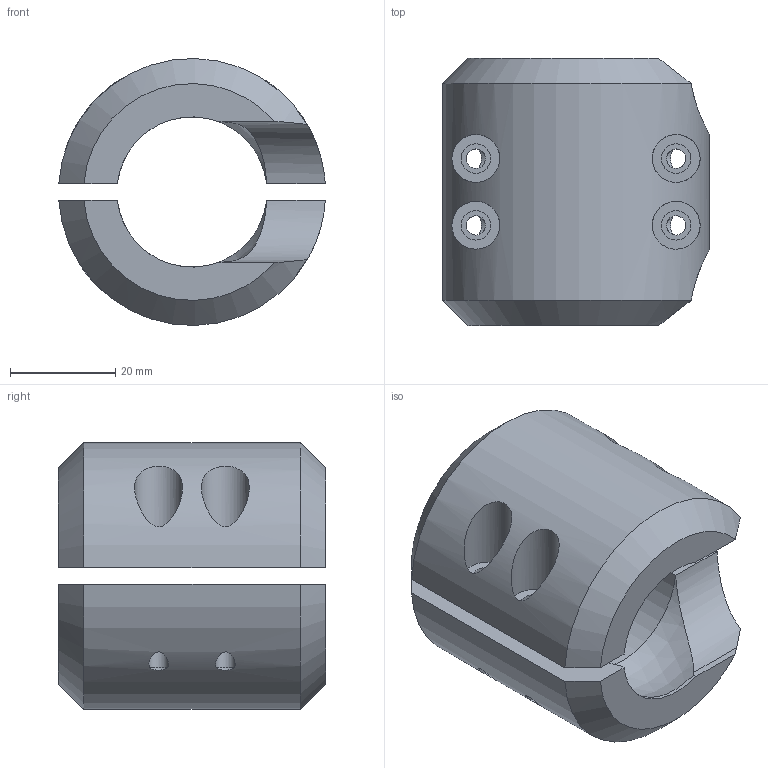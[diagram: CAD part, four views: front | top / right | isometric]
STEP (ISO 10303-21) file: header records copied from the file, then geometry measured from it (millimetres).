
FILE_DESCRIPTION( ( 'Unknown' ), '1' );
FILE_NAME( 'S:/A & P Tool/Start Button Swivel Mount/STP Files for Website/Knuckle.stp', 'Unknown', ( 'Jorge Villegas' ), ( 'A&P' ), 'PSStep 14.0', 'Solid Edge', ' ' );
FILE_SCHEMA( ( 'AUTOMOTIVE_DESIGN { 1 0 10303 214 1 1 1 1 }' ) );
Length unit declared in the file: millimetre
Products named in the file (3): 1; 2; 3
Bounding box: 50.7 x 50.8 x 50.79 mm (x, y, z)
Volume: 51919.6 mm3; surface area: 16495.3 mm2
Topology: 2 solids, 2 shells, 52 faces, 136 edges, 92 vertices
Faces by surface type: cylinder 24, plane 16, cone 8, sphere 4
Full cylindrical faces by diameter (mm): 3.68 x4, 5.613 x4, 9.119 x4
Entity records: 4521 total; most frequent: CARTESIAN_POINT 2482, DIRECTION 246, EDGE_CURVE 242, ORIENTED_EDGE 232, VERTEX_POINT 210, B_SPLINE_CURVE_WITH_KNOTS 158, AXIS2_PLACEMENT_3D 107, EDGE_LOOP 84
